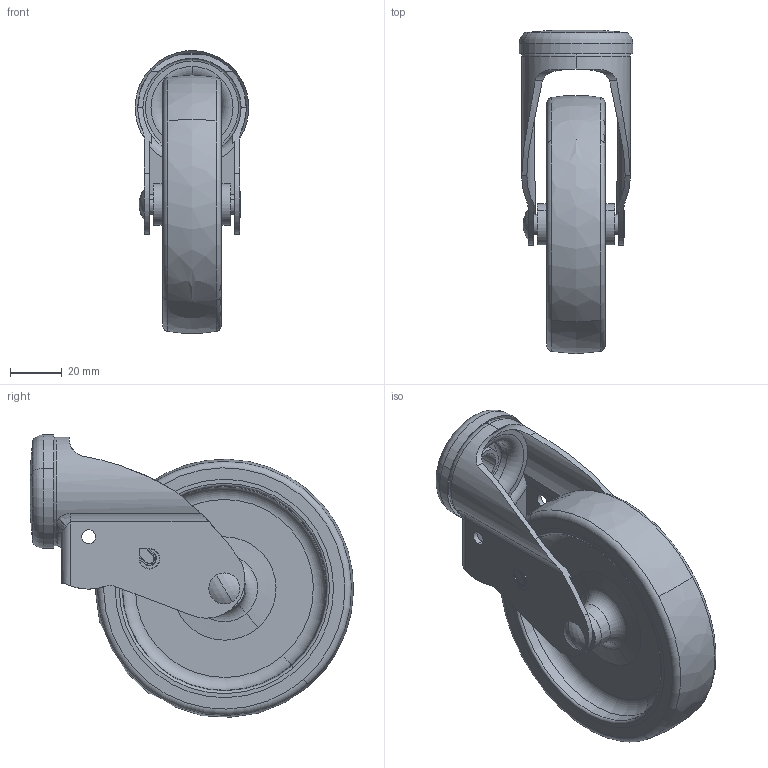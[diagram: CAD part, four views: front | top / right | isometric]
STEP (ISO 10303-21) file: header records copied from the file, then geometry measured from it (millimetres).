
FILE_DESCRIPTION (( 'STEP AP203' ), '1' );
FILE_NAME ('200303_STEP.STEP', '2014-06-12T09:44:04', ( 'admin' ), ( 'Hewlett-Packard Company' ), 'SwSTEP 2.0', 'SolidWorks 2011', '' );
FILE_SCHEMA (( 'CONFIG_CONTROL_DESIGN' ));
Length unit declared in the file: millimetre
Products named in the file (1): 200303_STEP
Bounding box: 43.9 x 124.98 x 109.25 mm (x, y, z)
Volume: 118699.7 mm3; surface area: 70361.2 mm2
Topology: 28 solids, 28 shells, 279 faces, 705 edges, 452 vertices
Faces by surface type: cylinder 81, plane 56, torus 54, sphere 50, cone 36, bspline 2
Entity records: 8158 total; most frequent: CARTESIAN_POINT 1839, DIRECTION 1467, ORIENTED_EDGE 1166, AXIS2_PLACEMENT_3D 648, EDGE_CURVE 583, VERTEX_POINT 380, CIRCLE 370, EDGE_LOOP 319
